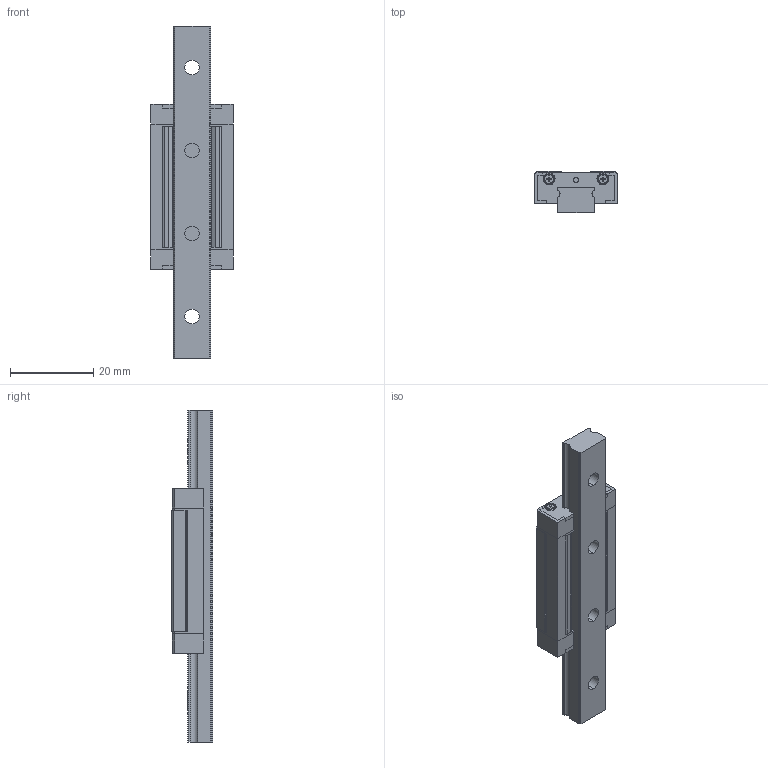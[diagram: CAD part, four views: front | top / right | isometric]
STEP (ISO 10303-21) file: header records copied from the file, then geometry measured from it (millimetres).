
FILE_DESCRIPTION (( 'STEP AP214' ), '1' );
FILE_NAME ('FBXX09NH-SS.STEP', '2022-08-06T05:30:18', ( 'JST' ), ( 'JST' ), 'SwSTEP 2.0', 'SolidWorks 2016', '' );
FILE_SCHEMA (( 'AUTOMOTIVE_DESIGN' ));
Length unit declared in the file: millimetre
Products named in the file (8): M1.6蹟佪; 09NH悜遠釱; 09N絳寢; 09NH傷裔; FBXX09NH-SS; 09NH-SS賑輸; 09NH賑輸; 09NH-SS滅鳥え
Assembly tree (12 placements, depth 3):
  FBXX09NH-SS
    09N絳寢
    09NH-SS賑輸
      09NH悜遠釱
      09NH賑輸
      09NH-SS滅鳥え  x2
      09NH傷裔  x2
      M1.6蹟佪  x4
Bounding box: 20 x 10 x 80 mm (x, y, z)
Volume: 7905 mm3; surface area: 8056.5 mm2
Topology: 11 solids, 11 shells, 514 faces, 1390 edges, 912 vertices
Faces by surface type: cylinder 237, plane 233, cone 24, bspline 20
Entity records: 12274 total; most frequent: CARTESIAN_POINT 5278, ORIENTED_EDGE 1426, DIRECTION 1366, EDGE_CURVE 713, VERTEX_POINT 468, VECTOR 468, LINE 468, AXIS2_PLACEMENT_3D 449
